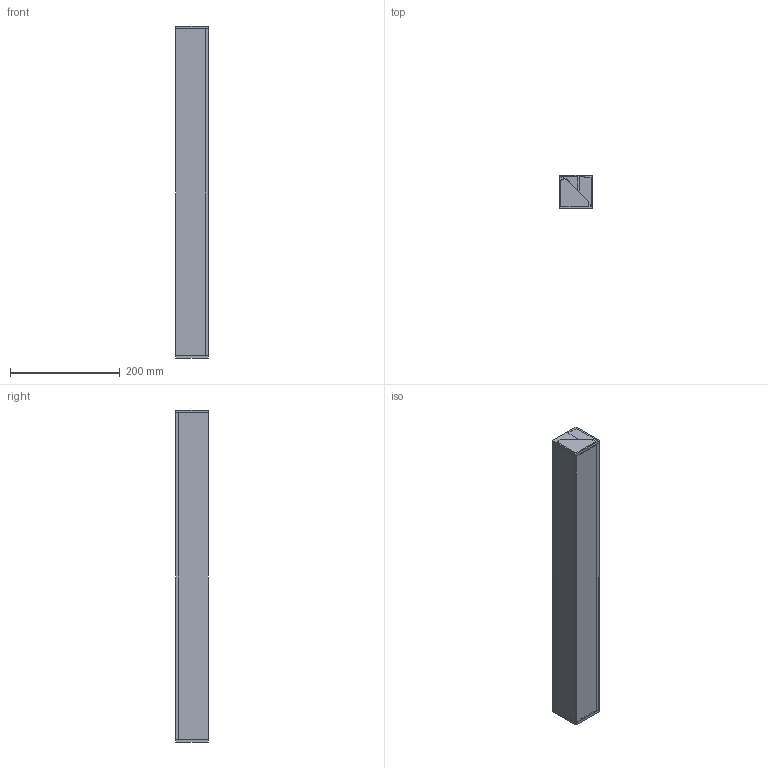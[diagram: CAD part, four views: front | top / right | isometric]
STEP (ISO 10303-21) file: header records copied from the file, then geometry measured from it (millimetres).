
FILE_DESCRIPTION (( 'STEP AP214' ), '1' );
FILE_NAME ('TAVI-A385060.STEP', '2026-01-15T09:25:41', ( '' ), ( '' ), 'SwSTEP 2.0', 'SolidWorks 2025', '' );
FILE_SCHEMA (( 'AUTOMOTIVE_DESIGN' ));
Length unit declared in the file: millimetre
Products named in the file (6): TAVI-A385060; LXC; PZC; DUGAIY; AZJ; DUGAIZ
Assembly tree (5 placements, depth 2):
  TAVI-A385060
    LXC
    PZC
    DUGAIY
    DUGAIZ
    AZJ
Bounding box: 60 x 60 x 605 mm (x, y, z)
Volume: 280185.4 mm3; surface area: 463050 mm2
Topology: 5 solids, 5 shells, 253 faces, 715 edges, 474 vertices
Faces by surface type: plane 210, cylinder 39, cone 4
Entity records: 8316 total; most frequent: CARTESIAN_POINT 1468, ORIENTED_EDGE 1430, DIRECTION 1313, EDGE_CURVE 715, VECTOR 627, LINE 627, VERTEX_POINT 474, AXIS2_PLACEMENT_3D 343
